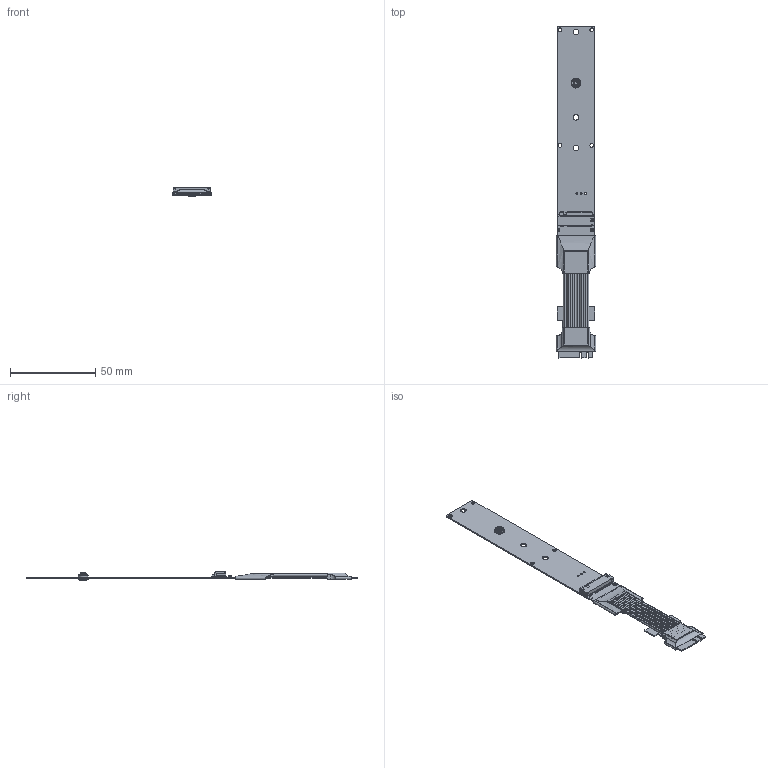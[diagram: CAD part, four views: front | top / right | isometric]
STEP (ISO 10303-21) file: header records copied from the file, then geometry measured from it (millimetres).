
FILE_DESCRIPTION(('Open CASCADE Model'),'2;1');
FILE_NAME('Open CASCADE Shape Model','2024-08-27T13:09:39',('Author'),( 'Open CASCADE'),'Open CASCADE STEP processor 7.5','Open CASCADE 7.5' ,'Unknown');
FILE_SCHEMA(('AUTOMOTIVE_DESIGN { 1 0 10303 214 1 1 1 1 }'));
Length unit declared in the file: millimetre
Products named in the file (25): PCB; Board; Open CASCADE STEP translator 7.5 4.1.1; Designator58; C0603_060; Designator57; LED AP1608; Designator46; 0603_RES; Capsule; Encapsulation; TopCover; CN1; c-1-2199119-3-a1-3d.stp; Free-Models; Tape14x5_RGB0; 4.0 4F Heat shrink tube 20210812_RGB3618615; DP5A-DP8B 20210812; M5J HST_RGB2960685; G0030_RGB12967653; G0042; M2 nuc_RGB3326705
Assembly tree (27 placements, depth 4):
  PCB
    Board
      Open CASCADE STEP translator 7.5 4.1.1
    Designator58
      C0603_060
      C0603_060
      C0603_060
    Designator57
      LED AP1608
    Designator46
      0603_RES
        Capsule
        Encapsulation  x2
        TopCover
    CN1
      c-1-2199119-3-a1-3d.stp  x2
      c-1-2199119-3-a1-3d.stp
    Free-Models
      Tape14x5_RGB0
      4.0 4F Heat shrink tube 20210812_RGB3618615
      DP5A-DP8B 20210812
      M5J HST_RGB2960685
      G0030_RGB12967653
      G0042  x2
      M2 nuc_RGB3326705
Bounding box: 23.25 x 194.62 x 4.99 mm (x, y, z)
Volume: 4976.4 mm3; surface area: 23255.3 mm2
Topology: 102 solids, 102 shells, 6185 faces, 17011 edges, 11277 vertices
Faces by surface type: plane 4224, cylinder 1632, bspline 194, torus 102, cone 17, sphere 8, offset 6, extrusion 2
Full cylindrical faces by diameter (mm): 0.55 x24, 0.58 x48, 1.05 x3, 1.1 x1, 1.6 x1, 2 x1, 2.2 x6, 3.2 x3, 3.4 x6, 4.1 x1, 5 x1, 5.76 x2
Entity records: 185109 total; most frequent: CARTESIAN_POINT 35355, ORIENTED_EDGE 24862, DIRECTION 23439, EDGE_CURVE 12431, VECTOR 9225, LINE 9223, VERTEX_POINT 8236, AXIS2_PLACEMENT_3D 7107
